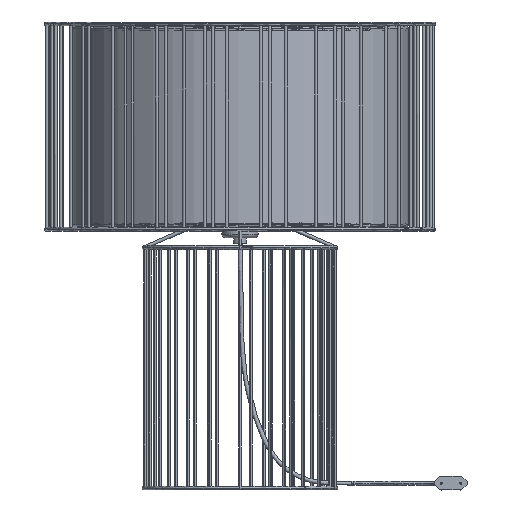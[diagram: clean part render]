
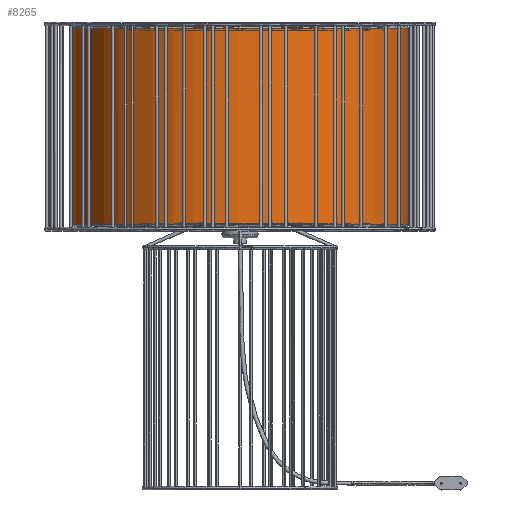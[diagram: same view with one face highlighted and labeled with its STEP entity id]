
A CAD part, left-side view. The second image highlights one B-rep face of the part: STEP entity #8265.
In plain terms, the highlighted cylindrical face has radius 172.5 mm (diameter 345 mm), a partial arc.
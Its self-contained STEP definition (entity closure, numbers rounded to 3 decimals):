
#943=FACE_OUTER_BOUND('',#1474,.T.);
#1474=EDGE_LOOP('',(#6652,#6653,#6654,#6655));
#2063=LINE('',#24447,#2524);
#2064=LINE('',#24464,#2525);
#2524=VECTOR('',#10466,304.8);
#2525=VECTOR('',#10467,304.8);
#2917=B_SPLINE_CURVE_WITH_KNOTS('',3,(#24519,#24520,#24521,#24522,#24523,
#24524,#24525,#24526,#24527,#24528,#24529,#24530,#24531,#24532,#24533),
 .UNSPECIFIED.,.F.,.F.,(4,1,1,1,1,1,1,1,1,1,1,1,4),(0.,0.083,
0.167,0.25,0.333,0.417,0.5,0.583,
0.667,0.75,0.833,0.917,1.),
 .UNSPECIFIED.);
#2918=B_SPLINE_CURVE_WITH_KNOTS('',3,(#24536,#24537,#24538,#24539,#24540,
#24541,#24542,#24543,#24544,#24545,#24546,#24547,#24548,#24549,#24550),
 .UNSPECIFIED.,.F.,.F.,(4,1,1,1,1,1,1,1,1,1,1,1,4),(0.,0.083,
0.167,0.25,0.333,0.417,0.5,0.583,
0.667,0.75,0.833,0.917,1.),
 .UNSPECIFIED.);
#3635=VERTEX_POINT('',#24379);
#3637=VERTEX_POINT('',#24404);
#3639=VERTEX_POINT('',#24446);
#3640=VERTEX_POINT('',#24448);
#4691=EDGE_CURVE('',#3639,#3635,#2063,.T.);
#4693=EDGE_CURVE('',#3637,#3640,#2064,.T.);
#4699=EDGE_CURVE('',#3635,#3637,#2917,.T.);
#4701=EDGE_CURVE('',#3639,#3640,#2918,.T.);
#6652=ORIENTED_EDGE('',*,*,#4693,.T.);
#6653=ORIENTED_EDGE('',*,*,#4701,.F.);
#6654=ORIENTED_EDGE('',*,*,#4691,.T.);
#6655=ORIENTED_EDGE('',*,*,#4699,.T.);
#7820=CYLINDRICAL_SURFACE('',#8945,172.5);
#8265=ADVANCED_FACE('',(#943),#7820,.T.);
#8945=AXIS2_PLACEMENT_3D('',#24535,#10480,#10481);
#10466=DIRECTION('',(0.,0.,1.));
#10467=DIRECTION('',(0.,0.,-1.));
#10480=DIRECTION('center_axis',(0.,0.,-1.));
#10481=DIRECTION('ref_axis',(0.,-1.,0.));
#24379=CARTESIAN_POINT('',(0.,-172.5,207.5));
#24404=CARTESIAN_POINT('',(0.,172.5,207.5));
#24446=CARTESIAN_POINT('',(0.,-172.5,6.5));
#24447=CARTESIAN_POINT('',(0.,-172.5,6.5));
#24448=CARTESIAN_POINT('',(0.,172.5,6.5));
#24464=CARTESIAN_POINT('',(0.,172.5,207.5));
#24519=CARTESIAN_POINT('Ctrl Pts',(0.,-172.5,
207.5));
#24520=CARTESIAN_POINT('Ctrl Pts',(-15.066,-172.547,
207.5));
#24521=CARTESIAN_POINT('Ctrl Pts',(-45.153,-168.515,
207.5));
#24522=CARTESIAN_POINT('Ctrl Pts',(-87.242,-151.111,207.5));
#24523=CARTESIAN_POINT('Ctrl Pts',(-123.377,-123.376,
207.5));
#24524=CARTESIAN_POINT('Ctrl Pts',(-151.106,-87.241,207.5));
#24525=CARTESIAN_POINT('Ctrl Pts',(-168.536,-45.159,
207.5));
#24526=CARTESIAN_POINT('Ctrl Pts',(-174.482,0.,
207.5));
#24527=CARTESIAN_POINT('Ctrl Pts',(-168.536,45.159,207.5));
#24528=CARTESIAN_POINT('Ctrl Pts',(-151.106,87.241,207.5));
#24529=CARTESIAN_POINT('Ctrl Pts',(-123.377,123.376,207.5));
#24530=CARTESIAN_POINT('Ctrl Pts',(-87.242,151.111,207.5));
#24531=CARTESIAN_POINT('Ctrl Pts',(-45.153,168.515,207.5));
#24532=CARTESIAN_POINT('Ctrl Pts',(-15.066,172.547,207.5));
#24533=CARTESIAN_POINT('Ctrl Pts',(0.,172.5,
207.5));
#24535=CARTESIAN_POINT('Origin',(0.,0.,107.));
#24536=CARTESIAN_POINT('Ctrl Pts',(0.,-172.5,6.5));
#24537=CARTESIAN_POINT('Ctrl Pts',(-15.066,-172.547,
6.5));
#24538=CARTESIAN_POINT('Ctrl Pts',(-45.153,-168.515,
6.5));
#24539=CARTESIAN_POINT('Ctrl Pts',(-87.242,-151.111,6.5));
#24540=CARTESIAN_POINT('Ctrl Pts',(-123.377,-123.376,
6.5));
#24541=CARTESIAN_POINT('Ctrl Pts',(-151.106,-87.241,
6.5));
#24542=CARTESIAN_POINT('Ctrl Pts',(-168.536,-45.159,
6.5));
#24543=CARTESIAN_POINT('Ctrl Pts',(-174.482,0.,
6.5));
#24544=CARTESIAN_POINT('Ctrl Pts',(-168.536,45.159,6.5));
#24545=CARTESIAN_POINT('Ctrl Pts',(-151.106,87.241,6.5));
#24546=CARTESIAN_POINT('Ctrl Pts',(-123.377,123.376,6.5));
#24547=CARTESIAN_POINT('Ctrl Pts',(-87.242,151.111,6.5));
#24548=CARTESIAN_POINT('Ctrl Pts',(-45.153,168.515,6.5));
#24549=CARTESIAN_POINT('Ctrl Pts',(-15.066,172.547,6.5));
#24550=CARTESIAN_POINT('Ctrl Pts',(0.,172.5,6.5));
